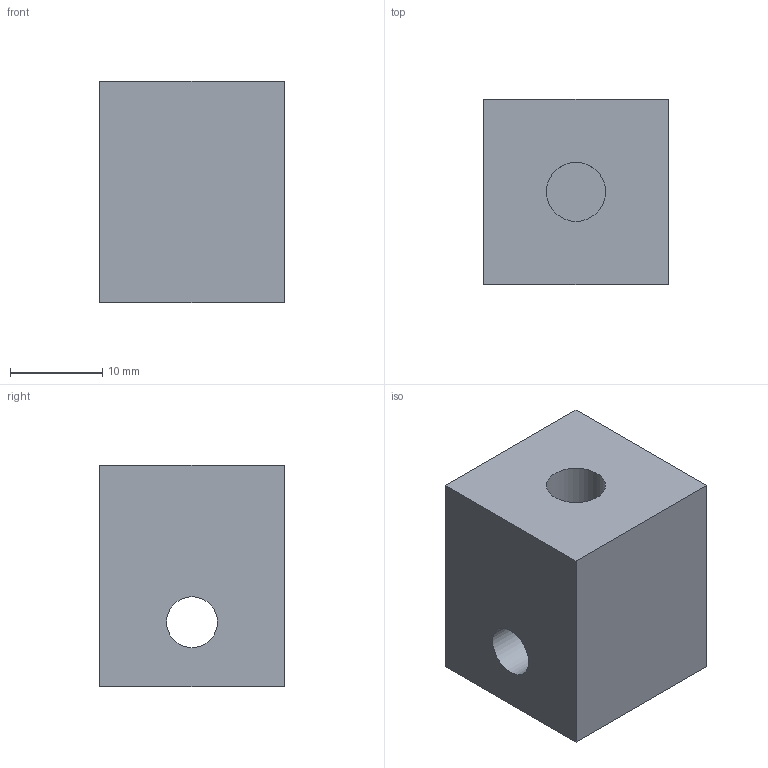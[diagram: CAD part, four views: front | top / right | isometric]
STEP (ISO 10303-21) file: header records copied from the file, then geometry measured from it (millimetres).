
FILE_DESCRIPTION(('Open CASCADE Model'),'2;1');
FILE_NAME('Open CASCADE Shape Model','2026-10-06T19:56:09',('Author'),( 'Open CASCADE'),'Open CASCADE STEP processor 7.9','Open CASCADE 7.9' ,'Unknown');
FILE_SCHEMA(('AUTOMOTIVE_DESIGN { 1 0 10303 214 1 1 1 1 }'));
Length unit declared in the file: millimetre
Products named in the file (1): Open CASCADE STEP translator 7.9 12
Bounding box: 20 x 20 x 24 mm (x, y, z)
Volume: 8899.6 mm3; surface area: 3158.8 mm2
Topology: 1 solids, 1 shells, 9 faces, 18 edges, 12 vertices
Faces by surface type: plane 7, cylinder 2
Full cylindrical faces by diameter (mm): 5.5 x1, 6.4 x1
Entity records: 493 total; most frequent: CARTESIAN_POINT 94, DIRECTION 75, LINE 46, VECTOR 46, ORIENTED_EDGE 36, PCURVE 36, DEFINITIONAL_REPRESENTATION 36, EDGE_CURVE 18
